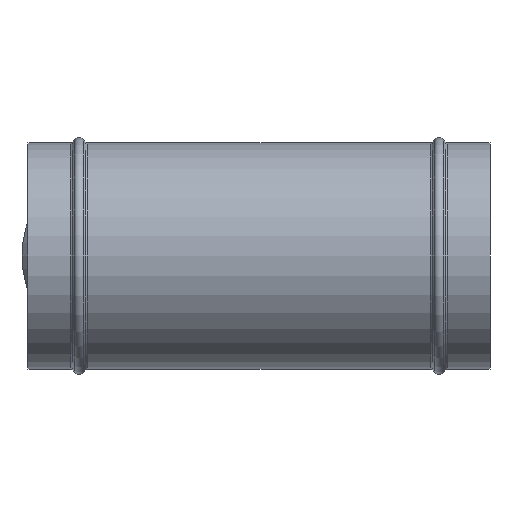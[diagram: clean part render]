
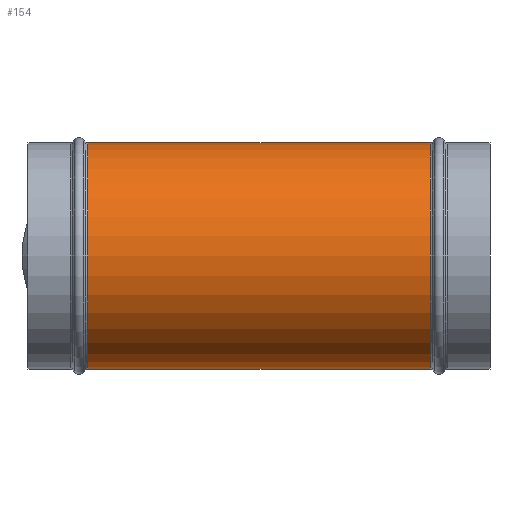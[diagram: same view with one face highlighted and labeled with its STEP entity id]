
A CAD part, front view. The second image highlights one B-rep face of the part: STEP entity #154.
In plain terms, the highlighted cylindrical face has radius 76.5 mm (diameter 153 mm), a full revolution.
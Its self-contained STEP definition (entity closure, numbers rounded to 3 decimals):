
#154=ADVANCED_FACE('',(#231,#232,#233),#188,.T.);
#188=CYLINDRICAL_SURFACE('',#665,76.5);
#197=B_SPLINE_CURVE_WITH_KNOTS('',3,(#914,#915,#916,#917,#918,#919,#920,
#921,#922,#923,#924,#925,#926,#927,#928,#929,#930,#931,#932,#933,#934,#935,
#936,#937,#938,#939,#940,#941,#942,#943,#944,#945,#946,#947,#948,#949,#950,
#951,#952,#953,#954,#955,#956,#957,#958,#959,#960,#961,#962,#963,#964,#965,
#966,#967,#968,#969,#970,#971),.UNSPECIFIED.,.T.,.F.,(2,2,2,2,2,2,2,2,2,
2,2,2,2,2,2,2,2,2,2,2,2,2,2,2,2,2,2,2,2,2,2),(-0.016,0.,0.016,
0.031,0.062,0.094,0.125,0.188,0.25,
0.313,0.344,0.375,0.406,0.438,0.469,
0.5,0.531,0.563,0.594,0.625,0.656,0.688,0.75,0.813,0.875,0.906,
0.938,0.969,0.984,1.,1.016),.UNSPECIFIED.);
#231=FACE_BOUND('',#327,.T.);
#232=FACE_BOUND('',#328,.T.);
#233=FACE_BOUND('',#329,.T.);
#327=EDGE_LOOP('',(#423));
#328=EDGE_LOOP('',(#424));
#329=EDGE_LOOP('',(#425));
#423=ORIENTED_EDGE('',*,*,#536,.F.);
#424=ORIENTED_EDGE('',*,*,#553,.F.);
#425=ORIENTED_EDGE('',*,*,#554,.T.);
#488=VERTEX_POINT('',#972);
#505=VERTEX_POINT('',#1021);
#506=VERTEX_POINT('',#1024);
#536=EDGE_CURVE('',#488,#488,#197,.T.);
#553=EDGE_CURVE('',#505,#505,#600,.T.);
#554=EDGE_CURVE('',#506,#506,#601,.T.);
#600=CIRCLE('',#662,76.5);
#601=CIRCLE('',#664,76.5);
#662=AXIS2_PLACEMENT_3D('',#1020,#789,#790);
#664=AXIS2_PLACEMENT_3D('',#1023,#793,#794);
#665=AXIS2_PLACEMENT_3D('',#1025,#795,#796);
#789=DIRECTION('',(1.,0.,0.));
#790=DIRECTION('',(0.,0.,-1.));
#793=DIRECTION('',(1.,0.,0.));
#794=DIRECTION('',(0.,0.,-1.));
#795=DIRECTION('',(1.,0.,0.));
#796=DIRECTION('',(0.,0.,1.));
#914=CARTESIAN_POINT('',(-216.842,76.5,-2.125));
#915=CARTESIAN_POINT('',(-216.842,76.5,2.125));
#916=CARTESIAN_POINT('',(-216.566,76.412,4.198));
#917=CARTESIAN_POINT('',(-215.528,76.081,8.25));
#918=CARTESIAN_POINT('',(-214.758,75.836,10.23));
#919=CARTESIAN_POINT('',(-211.954,74.95,15.771));
#920=CARTESIAN_POINT('',(-209.377,74.143,19.088));
#921=CARTESIAN_POINT('',(-203.668,72.393,24.915));
#922=CARTESIAN_POINT('',(-200.494,71.437,27.483));
#923=CARTESIAN_POINT('',(-193.778,69.475,32.122));
#924=CARTESIAN_POINT('',(-190.287,68.482,34.158));
#925=CARTESIAN_POINT('',(-179.517,65.542,39.671));
#926=CARTESIAN_POINT('',(-171.906,63.616,42.584));
#927=CARTESIAN_POINT('',(-156.225,60.269,47.203));
#928=CARTESIAN_POINT('',(-148.232,58.851,48.894));
#929=CARTESIAN_POINT('',(-131.827,57.136,50.887));
#930=CARTESIAN_POINT('',(-123.331,56.855,51.202));
#931=CARTESIAN_POINT('',(-110.916,58.186,49.669));
#932=CARTESIAN_POINT('',(-106.846,58.931,48.807));
#933=CARTESIAN_POINT('',(-99.238,60.977,46.225));
#934=CARTESIAN_POINT('',(-95.593,62.314,44.456));
#935=CARTESIAN_POINT('',(-89.145,65.25,40.022));
#936=CARTESIAN_POINT('',(-86.322,66.838,37.373));
#937=CARTESIAN_POINT('',(-81.443,69.926,31.217));
#938=CARTESIAN_POINT('',(-79.47,71.365,27.83));
#939=CARTESIAN_POINT('',(-76.286,73.82,20.445));
#940=CARTESIAN_POINT('',(-75.113,74.809,16.515));
#941=CARTESIAN_POINT('',(-73.552,76.146,8.421));
#942=CARTESIAN_POINT('',(-73.159,76.499,4.188));
#943=CARTESIAN_POINT('',(-73.157,76.501,-4.147));
#944=CARTESIAN_POINT('',(-73.542,76.155,-8.349));
#945=CARTESIAN_POINT('',(-75.103,74.817,-16.48));
#946=CARTESIAN_POINT('',(-76.257,73.843,-20.36));
#947=CARTESIAN_POINT('',(-79.426,71.397,-27.745));
#948=CARTESIAN_POINT('',(-81.419,69.944,-31.172));
#949=CARTESIAN_POINT('',(-86.219,66.9,-37.259));
#950=CARTESIAN_POINT('',(-89.098,65.275,-39.981));
#951=CARTESIAN_POINT('',(-95.514,62.346,-44.411));
#952=CARTESIAN_POINT('',(-99.128,61.01,-46.182));
#953=CARTESIAN_POINT('',(-106.829,58.932,-48.806));
#954=CARTESIAN_POINT('',(-110.868,58.193,-49.662));
#955=CARTESIAN_POINT('',(-123.351,56.85,-51.207));
#956=CARTESIAN_POINT('',(-131.718,57.127,-50.897));
#957=CARTESIAN_POINT('',(-148.265,58.852,-48.892));
#958=CARTESIAN_POINT('',(-156.257,60.276,-47.192));
#959=CARTESIAN_POINT('',(-171.847,63.603,-42.602));
#960=CARTESIAN_POINT('',(-179.506,65.539,-39.679));
#961=CARTESIAN_POINT('',(-190.331,68.495,-34.134));
#962=CARTESIAN_POINT('',(-193.83,69.49,-32.09));
#963=CARTESIAN_POINT('',(-200.535,71.45,-27.451));
#964=CARTESIAN_POINT('',(-203.707,72.405,-24.881));
#965=CARTESIAN_POINT('',(-209.409,74.153,-19.049));
#966=CARTESIAN_POINT('',(-211.976,74.957,-15.739));
#967=CARTESIAN_POINT('',(-214.775,75.842,-10.189));
#968=CARTESIAN_POINT('',(-215.541,76.085,-8.209));
#969=CARTESIAN_POINT('',(-216.568,76.412,-4.184));
#970=CARTESIAN_POINT('',(-216.842,76.5,-2.125));
#971=CARTESIAN_POINT('',(-216.842,76.5,2.125));
#972=CARTESIAN_POINT('',(-216.842,76.5,0.));
#1020=CARTESIAN_POINT('',(-40.278,0.,0.));
#1021=CARTESIAN_POINT('',(-40.278,0.,-76.5));
#1023=CARTESIAN_POINT('',(-272.222,0.,0.));
#1024=CARTESIAN_POINT('',(-272.222,0.,-76.5));
#1025=CARTESIAN_POINT('',(0.,0.,0.));
